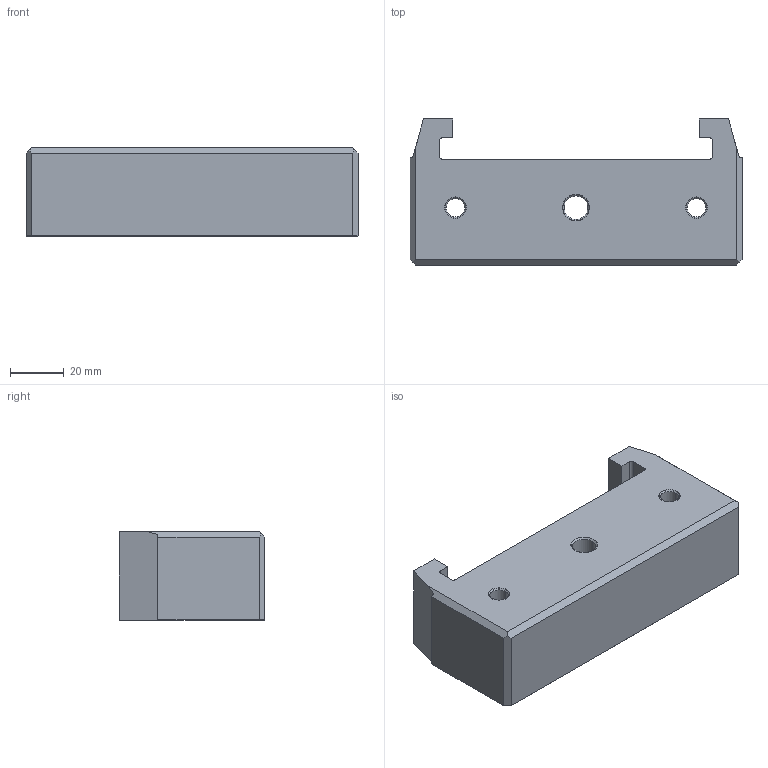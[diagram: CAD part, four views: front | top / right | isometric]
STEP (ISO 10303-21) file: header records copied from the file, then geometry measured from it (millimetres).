
FILE_DESCRIPTION((''),'2;1');
FILE_NAME('FG_VC_BASIC_C0030NP001','2026-02-23T17:15:05',('Admin'),(''),'CREO PARAMETRIC BY PTC INC, 2025010','CREO PARAMETRIC BY PTC INC, 2025010','');
FILE_SCHEMA(('CONFIG_CONTROL_DESIGN'));
Length unit declared in the file: millimetre
Products named in the file (1): FG_VC_BASIC_C0030NP001
Bounding box: 124 x 54.5 x 33 mm (x, y, z)
Volume: 167044.9 mm3; surface area: 27950.3 mm2
Topology: 1 solids, 4 shells, 50 faces, 134 edges, 86 vertices
Faces by surface type: plane 28, cylinder 16, cone 6
Entity records: 1606 total; most frequent: DIRECTION 274, CARTESIAN_POINT 271, ORIENTED_EDGE 256, EDGE_CURVE 134, VECTOR 96, LINE 96, AXIS2_PLACEMENT_3D 89, VERTEX_POINT 86
